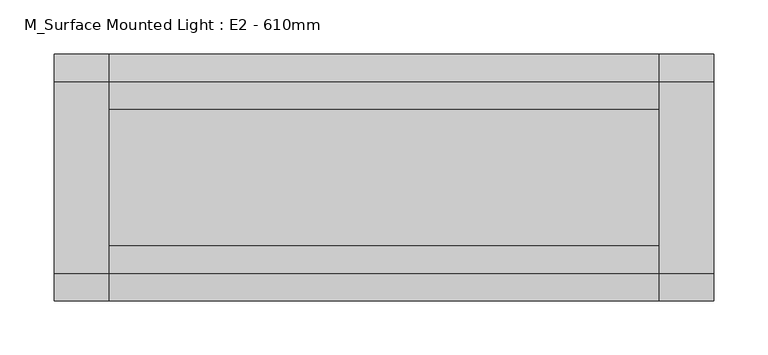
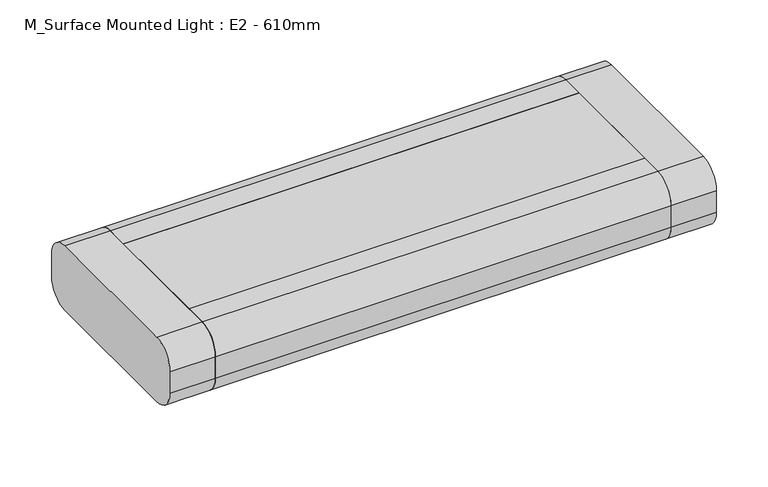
"""IFC4 building model written with IfcOpenShell, lengths in millimetres: light fixture geometry, M_Surface Mounted Light : E2 - 610mm."""

from ifc_helpers import new_model, si_unit, point, frame, frame_2d, origin, origin_with_axes, place, context, project, spatial, polyline, circle_curve, trimmed, segment, composite_curve, outline, extrude, source, transform, mapped, element, save


def m_surface_mounted_light_e2_610mm_7c5897e4(model_context):
    return source(origin(), model_context, "Body", "SweptSolid", [
        extrude(outline(composite_curve([segment(polyline([(114.3, 74.6), (114.3, 49.2)]), True, "CONTINUOUS"), segment(trimmed(circle_curve(frame_2d((88.9, 49.2)), 25.4), [point((114.3, 49.2))], [point((88.9, 23.8))], False, "CARTESIAN"), True, "CONTINUOUS"), segment(polyline([(88.9, 23.8), (-88.9, 23.8)]), True, "CONTINUOUS"), segment(trimmed(circle_curve(frame_2d((-88.9, 49.2)), 25.4), [point((-88.9, 23.8))], [point((-114.3, 49.2))], False, "CARTESIAN"), True, "CONTINUOUS"), segment(polyline([(-114.3, 49.2), (-114.3, 74.6)]), True, "CONTINUOUS"), segment(trimmed(circle_curve(frame_2d((-88.9, 74.6)), 25.4), [point((-114.3, 74.6))], [point((-88.9, 100.0))], False, "CARTESIAN"), True, "CONTINUOUS"), segment(polyline([(-88.9, 100.0), (-63.5, 100.0), (-63.5, 74.6), (63.5, 74.6), (63.5, 100.0), (88.9, 100.0)]), True, "CONTINUOUS"), segment(trimmed(circle_curve(frame_2d((88.9, 74.6)), 25.4), [point((88.9, 100.0))], [point((114.3, 74.6))], False, "CARTESIAN"), True, "CONTINUOUS")], self_intersect=False)), frame((-254.2, 0.0, 0.0), z_axis=(1.0, 0.0, 0.0), x_axis=(0.0, 1.0, 0.0)), (0.0, 0.0, 1.0), 508.4),
        extrude(outline(polyline([(254.2, 63.5), (254.2, -63.5), (-254.2, -63.5), (-254.2, 63.5), (254.2, 63.5)])), frame((0.0, 0.0, 87.3), z_axis=(0.0, 0.0, 1.0), x_axis=(1.0, 0.0, 0.0)), (0.0, 0.0, 1.0), 12.7),
        extrude(outline(composite_curve([segment(trimmed(circle_curve(frame_2d((228.8, 0.0)), 25.4), [point((203.4, 0.0))], [point((254.2, 0.0))], False, "CARTESIAN"), True, "CONTINUOUS"), segment(trimmed(circle_curve(frame_2d((228.8, 0.0)), 25.4), [point((254.2, 0.0))], [point((203.4, 0.0))], False, "CARTESIAN"), True, "CONTINUOUS")], self_intersect=False)), origin_with_axes(), (0.0, 0.0, 1.0), 12.7),
        extrude(outline(composite_curve([segment(trimmed(circle_curve(frame_2d((-228.8, 0.0)), 25.4), [point((-254.2, 0.0))], [point((-203.4, 0.0))], False, "CARTESIAN"), True, "CONTINUOUS"), segment(trimmed(circle_curve(frame_2d((-228.8, 0.0)), 25.4), [point((-203.4, 0.0))], [point((-254.2, 0.0))], False, "CARTESIAN"), True, "CONTINUOUS")], self_intersect=False)), origin_with_axes(), (0.0, 0.0, 1.0), 12.7),
        extrude(outline(composite_curve([segment(trimmed(circle_curve(frame_2d((-88.9, 74.6)), 25.4), [point((-114.3, 74.6))], [point((-88.9, 100.0))], False, "CARTESIAN"), True, "CONTINUOUS"), segment(polyline([(-88.9, 100.0), (88.9, 100.0)]), True, "CONTINUOUS"), segment(trimmed(circle_curve(frame_2d((88.9, 74.6)), 25.4), [point((88.9, 100.0))], [point((114.3, 74.6))], False, "CARTESIAN"), True, "CONTINUOUS"), segment(polyline([(114.3, 74.6), (114.3, 49.2)]), True, "CONTINUOUS"), segment(trimmed(circle_curve(frame_2d((88.9, 49.2)), 25.4), [point((114.3, 49.2))], [point((88.9, 23.8))], False, "CARTESIAN"), True, "CONTINUOUS"), segment(polyline([(88.9, 23.8), (-88.9, 23.8)]), True, "CONTINUOUS"), segment(trimmed(circle_curve(frame_2d((-88.9, 49.2)), 25.4), [point((-88.9, 23.8))], [point((-114.3, 49.2))], False, "CARTESIAN"), True, "CONTINUOUS"), segment(polyline([(-114.3, 49.2), (-114.3, 74.6)]), True, "CONTINUOUS")], self_intersect=False)), frame((254.2, 0.0, 0.0), z_axis=(1.0, 0.0, 0.0), x_axis=(0.0, 1.0, 0.0)), (0.0, 0.0, 1.0), 50.8),
        extrude(outline(composite_curve([segment(polyline([(114.3, 74.6), (114.3, 49.2)]), True, "CONTINUOUS"), segment(trimmed(circle_curve(frame_2d((88.9, 49.2)), 25.4), [point((114.3, 49.2))], [point((88.9, 23.8))], False, "CARTESIAN"), True, "CONTINUOUS"), segment(polyline([(88.9, 23.8), (-88.9, 23.8)]), True, "CONTINUOUS"), segment(trimmed(circle_curve(frame_2d((-88.9, 49.2)), 25.4), [point((-88.9, 23.8))], [point((-114.3, 49.2))], False, "CARTESIAN"), True, "CONTINUOUS"), segment(polyline([(-114.3, 49.2), (-114.3, 74.6)]), True, "CONTINUOUS"), segment(trimmed(circle_curve(frame_2d((-88.9, 74.6)), 25.4), [point((-114.3, 74.6))], [point((-88.9, 100.0))], False, "CARTESIAN"), True, "CONTINUOUS"), segment(polyline([(-88.9, 100.0), (88.9, 100.0)]), True, "CONTINUOUS"), segment(trimmed(circle_curve(frame_2d((88.9, 74.6)), 25.4), [point((88.9, 100.0))], [point((114.3, 74.6))], False, "CARTESIAN"), True, "CONTINUOUS")], self_intersect=False)), frame((-305.0, 0.0, 0.0), z_axis=(1.0, 0.0, 0.0), x_axis=(0.0, 1.0, 0.0)), (0.0, 0.0, 1.0), 50.8),
        extrude(outline(composite_curve([segment(trimmed(circle_curve(frame_2d((228.8, 0.0)), 3.1340604), [point((225.6659396, 0.0))], [point((231.9340604, 0.0))], False, "CARTESIAN"), True, "CONTINUOUS"), segment(trimmed(circle_curve(frame_2d((228.8, 0.0)), 3.1340604), [point((231.9340604, 0.0))], [point((225.6659396, 0.0))], False, "CARTESIAN"), True, "CONTINUOUS")], self_intersect=False)), origin_with_axes(), (0.0, 0.0, 1.0), 23.8),
        extrude(outline(composite_curve([segment(trimmed(circle_curve(frame_2d((-228.8, 0.0)), 3.175), [point((-231.975, 0.0))], [point((-225.625, 0.0))], False, "CARTESIAN"), True, "CONTINUOUS"), segment(trimmed(circle_curve(frame_2d((-228.8, 0.0)), 3.175), [point((-225.625, 0.0))], [point((-231.975, 0.0))], False, "CARTESIAN"), True, "CONTINUOUS")], self_intersect=False)), origin_with_axes(), (0.0, 0.0, 1.0), 23.8),
    ])


if __name__ == "__main__":
    model = new_model("IFC4")
    model_context = context("Model", 3, world=origin())
    ifc_project = project(units=[si_unit("LENGTHUNIT", "METRE", prefix="MILLI")], contexts=[model_context])
    site = spatial("IfcSite", under=ifc_project)
    building = spatial("IfcBuilding", under=site)
    placement = place(None, origin())
    m_surface_mounted_light_e2_610mm_shape = m_surface_mounted_light_e2_610mm_7c5897e4(model_context)
    element("IfcLightFixture", 1, ObjectType="M_Surface Mounted Light : E2 - 610mm", at=placement, inside=building, context=model_context, shape_type="MappedRepresentation", body=[
        mapped(m_surface_mounted_light_e2_610mm_shape, transform((0.0, 0.0, 0.0), x_axis=(1.0, 0.0, 0.0), y_axis=(0.0, 1.0, 0.0), z_axis=(0.0, 0.0, 1.0))),
    ])
    save(model, "model.ifc")
